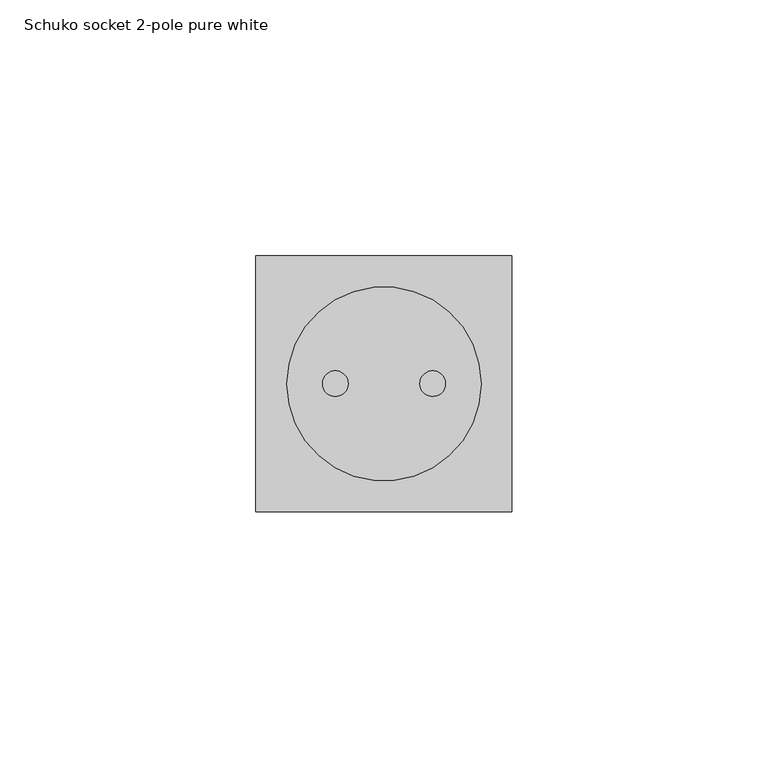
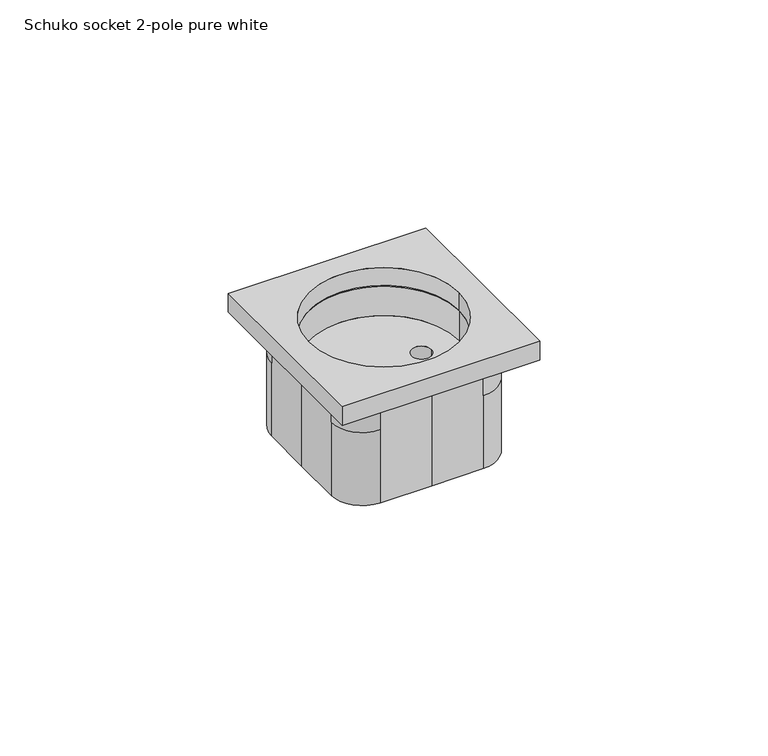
"""IFC4 building model written with IfcOpenShell, lengths in millimetres: proxy geometry, Electrical_Installation_Hager_VE-EE_Schuko-Socket : Schuko socket 2-pole pure white."""

from ifc_helpers import new_model, si_unit, point, frame, frame_2d, origin, origin_with_axes, place, context, project, spatial, polyline, circle_curve, trimmed, segment, composite_curve, outline, extrude, source, transform, mapped, element, save
from ifc_brep_helpers import plane_surface, cylinder_surface, revolved_surface, advanced_brep


def schuko_socket_2_pole_pure_white_34ad4e96(model_context):
    return source(origin(), model_context, "Body", "SolidModel", [
        advanced_brep(
        [(-13.037055, 20.9089332, 0.0), (-20.9, 13.0459882, 0.0), (-20.9, 0.0, 0.0), (-20.9, -13.0459882, 0.0), (-13.037055, -20.9089332, 0.0), (0.0, -20.9089332, 0.0), (13.037055, -20.9089332, 0.0), (20.9, -13.0459882, 0.0), (20.9, 0.0, 0.0), (20.9, 13.0459882, 0.0), (13.037055, 20.9089332, 0.0), (0.0, 20.9089332, 0.0), (-19.0, 0.0269361, 0.0), (19.0, 0.0269361, 0.0), (-19.0, 0.0269361, -7.8368709), (19.0, 0.0269361, -7.8368709), (-20.9, 13.0459882, -27.3980621), (-13.037055, 20.9089332, -27.3980621), (0.0, 20.9089332, -27.3980621), (13.037055, 20.9089332, -27.3980621), (20.9, 13.0459882, -27.3980621), (20.9, 0.0, -27.3980621), (20.9, -13.0459882, -27.3980621), (13.037055, -20.9089332, -27.3980621), (0.0, -20.9089332, -27.3980621), (-13.037055, -20.9089332, -27.3980621), (-20.9, -13.0459882, -27.3980621), (-20.9, 0.0, -27.3980621), (-7.0046862, 0.072652, -7.8368709), (-12.0046862, 0.072652, -7.8368709), (7.0046862, 0.072652, -7.8368709), (12.0046862, 0.072652, -7.8368709), (-12.0046862, 0.072652, -12.4150088), (-7.0046862, 0.072652, -12.4150088), (12.0046862, 0.072652, -12.4150088), (7.0046862, 0.072652, -12.4150088), (-13.037055, 20.9089332, -7.8368709), (-20.9, 13.0459882, -7.8368709), (-20.9, -13.0459882, -7.8368709), (-13.037055, -20.9089332, -7.8368709), (13.037055, -20.9089332, -7.8368709), (20.9, -13.0459882, -7.8368709), (20.9, 13.0459882, -7.8368709), (13.037055, 20.9089332, -7.8368709), (-20.9, 0.0, -7.8368709), (0.0, -20.9089332, -7.8368709), (20.9, 0.0, -7.8368709), (0.0, 20.9089332, -7.8368709)],
        [
            (0, 1, circle_curve(frame((-13.037055, 13.0459882, 0.0), z_axis=(0.0, 0.0, 1.0), x_axis=(1.0, 0.0, 0.0)), 7.862945)),
            (1, 2),
            (2, 3),
            (3, 4, circle_curve(frame((-13.037055, -13.0459882, 0.0), z_axis=(0.0, 0.0, 1.0), x_axis=(1.0, 0.0, 0.0)), 7.862945)),
            (4, 5),
            (5, 6),
            (6, 7, circle_curve(frame((13.037055, -13.0459882, 0.0), z_axis=(0.0, 0.0, 1.0), x_axis=(-1.0, 0.0, 0.0)), 7.862945)),
            (7, 8),
            (8, 9),
            (9, 10, circle_curve(frame((13.037055, 13.0459882, 0.0), z_axis=(0.0, 0.0, 1.0), x_axis=(-1.0, 0.0, 0.0)), 7.862945)),
            (10, 11),
            (11, 0),
            (12, 13, circle_curve(frame((0.0, 0.0269361, 0.0), z_axis=(0.0, 0.0, -1.0), x_axis=(1.0, 0.0, 0.0)), 19.0)),
            (13, 12, circle_curve(frame((0.0, 0.0269361, 0.0), z_axis=(0.0, 0.0, -1.0), x_axis=(1.0, 0.0, 0.0)), 19.0)),
            (12, 14),
            (14, 15, circle_curve(frame((0.0, 0.0269361, -7.8368709), z_axis=(0.0, 0.0, -1.0), x_axis=(1.0, 0.0, 0.0)), 19.0)),
            (15, 13),
            (15, 14, circle_curve(frame((0.0, 0.0269361, -7.8368709), z_axis=(0.0, 0.0, -1.0), x_axis=(1.0, 0.0, 0.0)), 19.0)),
            (16, 17, circle_curve(frame((-13.037055, 13.0459882, -27.3980621), z_axis=(0.0, 0.0, -1.0), x_axis=(1.0, 0.0, 0.0)), 7.862945)),
            (17, 18),
            (18, 19),
            (19, 20, circle_curve(frame((13.037055, 13.0459882, -27.3980621), z_axis=(0.0, 0.0, -1.0), x_axis=(-1.0, 0.0, 0.0)), 7.862945)),
            (20, 21),
            (21, 22),
            (22, 23, circle_curve(frame((13.037055, -13.0459882, -27.3980621), z_axis=(0.0, 0.0, -1.0), x_axis=(-1.0, 0.0, 0.0)), 7.862945)),
            (23, 24),
            (24, 25),
            (25, 26, circle_curve(frame((-13.037055, -13.0459882, -27.3980621), z_axis=(0.0, 0.0, -1.0), x_axis=(1.0, 0.0, 0.0)), 7.862945)),
            (26, 27),
            (27, 16),
            (28, 29, circle_curve(frame((-9.5046862, 0.072652, -7.8368709), z_axis=(0.0, 0.0, -1.0), x_axis=(1.0, 0.0, 0.0)), 2.5)),
            (29, 28, circle_curve(frame((-9.5046862, 0.072652, -7.8368709), z_axis=(0.0, 0.0, -1.0), x_axis=(1.0, 0.0, 0.0)), 2.5)),
            (30, 31, circle_curve(frame((9.5046862, 0.072652, -7.8368709), z_axis=(0.0, 0.0, -1.0), x_axis=(-1.0, 0.0, 0.0)), 2.5)),
            (31, 30, circle_curve(frame((9.5046862, 0.072652, -7.8368709), z_axis=(0.0, 0.0, -1.0), x_axis=(-1.0, 0.0, 0.0)), 2.5)),
            (32, 33, circle_curve(frame((-9.5046862, 0.072652, -12.4150088), z_axis=(0.0, 0.0, 1.0), x_axis=(1.0, 0.0, 0.0)), 2.5)),
            (33, 32, circle_curve(frame((-9.5046862, 0.072652, -12.4150088), z_axis=(0.0, 0.0, 1.0), x_axis=(1.0, 0.0, 0.0)), 2.5)),
            (34, 35, circle_curve(frame((9.5046862, 0.072652, -12.4150088), z_axis=(0.0, 0.0, 1.0), x_axis=(-1.0, 0.0, 0.0)), 2.5)),
            (35, 34, circle_curve(frame((9.5046862, 0.072652, -12.4150088), z_axis=(0.0, 0.0, 1.0), x_axis=(-1.0, 0.0, 0.0)), 2.5)),
            (32, 29),
            (28, 33),
            (34, 31),
            (30, 35),
            (0, 36),
            (36, 37, circle_curve(frame((-13.037055, 13.0459882, -7.8368709), z_axis=(0.0, 0.0, 1.0), x_axis=(1.0, 0.0, 0.0)), 7.862945)),
            (37, 1),
            (3, 38),
            (38, 39, circle_curve(frame((-13.037055, -13.0459882, -7.8368709), z_axis=(0.0, 0.0, 1.0), x_axis=(1.0, 0.0, 0.0)), 7.862945)),
            (39, 4),
            (6, 40),
            (40, 41, circle_curve(frame((13.037055, -13.0459882, -7.8368709), z_axis=(0.0, 0.0, 1.0), x_axis=(-1.0, 0.0, 0.0)), 7.862945)),
            (41, 7),
            (9, 42),
            (42, 43, circle_curve(frame((13.037055, 13.0459882, -7.8368709), z_axis=(0.0, 0.0, 1.0), x_axis=(-1.0, 0.0, 0.0)), 7.862945)),
            (43, 10),
            (27, 44),
            (44, 2),
            (37, 16),
            (26, 38),
            (25, 39),
            (24, 45),
            (45, 5),
            (23, 40),
            (22, 41),
            (21, 46),
            (46, 8),
            (20, 42),
            (19, 43),
            (18, 47),
            (47, 11),
            (17, 36),
        ],
        [
            plane_surface(frame((19.0, 0.0269361, 0.0), z_axis=(0.0, 0.0, 1.0), x_axis=(0.0, -1.0, 0.0))),
            revolved_surface(polyline([(19.0, 0.0269361, -7.8368709), (19.0, 0.0269361, 0.0)]), (0.0, 0.0269361, -7.8368709), (0.0, 0.0, -1.0)),
            plane_surface(frame((-20.9, 13.0459882, -27.3980621), z_axis=(0.0, 0.0, -1.0), x_axis=(0.0, 1.0, 0.0))),
            plane_surface(frame((-20.9, 13.0459882, -7.8368709), z_axis=(0.0, 0.0, 1.0), x_axis=(0.0, -1.0, 0.0))),
            plane_surface(frame((-7.0046862, 0.072652, -12.4150088), z_axis=(0.0, 0.0, 1.0), x_axis=(0.0, -1.0, 0.0))),
            revolved_surface(polyline([(-7.0046862, 0.072652, -7.8368709), (-7.0046862, 0.072652, -12.4150088)]), (-9.5046862, 0.072652, -12.4150088), (0.0, 0.0, 1.0)),
            revolved_surface(polyline([(7.0046862, 0.072652, -7.8368709), (7.0046862, 0.072652, -12.4150088)]), (9.5046862, 0.072652, 0.0), (0.0, 0.0, 1.0)),
            cylinder_surface(frame((-13.037055, 13.0459882, 0.0), z_axis=(0.0, 0.0, 1.0), x_axis=(1.0, 0.0, 0.0)), 7.862945),
            cylinder_surface(frame((-13.037055, -13.0459882, 0.0), z_axis=(0.0, 0.0, 1.0), x_axis=(1.0, 0.0, 0.0)), 7.862945),
            cylinder_surface(frame((13.037055, -13.0459882, 0.0), z_axis=(0.0, 0.0, 1.0), x_axis=(-1.0, 0.0, 0.0)), 7.862945),
            cylinder_surface(frame((13.037055, 13.0459882, 0.0), z_axis=(0.0, 0.0, 1.0), x_axis=(-1.0, 0.0, 0.0)), 7.862945),
            plane_surface(frame((-20.9, 13.0459882, -7.8368709), z_axis=(-1.0, 0.0, 0.0), x_axis=(0.0, 0.0, -1.0))),
            plane_surface(frame((-20.9, 0.0, -7.8368709), z_axis=(-1.0, 0.0, 0.0), x_axis=(0.0, 0.0, -1.0))),
            cylinder_surface(frame((-13.037055, -13.0459882, -27.3980621), z_axis=(0.0, 0.0, 1.0), x_axis=(1.0, 0.0, 0.0)), 7.862945),
            plane_surface(frame((-13.037055, -20.9089332, -7.8368709), z_axis=(0.0, -1.0, 0.0), x_axis=(0.0, 0.0, -1.0))),
            plane_surface(frame((0.0, -20.9089332, -7.8368709), z_axis=(0.0, -1.0, 0.0), x_axis=(0.0, 0.0, -1.0))),
            cylinder_surface(frame((13.037055, -13.0459882, -27.3980621), z_axis=(0.0, 0.0, 1.0), x_axis=(-1.0, 0.0, 0.0)), 7.862945),
            plane_surface(frame((20.9, -13.0459882, -7.8368709), z_axis=(1.0, 0.0, 0.0), x_axis=(0.0, 0.0, -1.0))),
            plane_surface(frame((20.9, 0.0, -7.8368709), z_axis=(1.0, 0.0, 0.0), x_axis=(0.0, 0.0, -1.0))),
            cylinder_surface(frame((13.037055, 13.0459882, -27.3980621), z_axis=(0.0, 0.0, 1.0), x_axis=(-1.0, 0.0, 0.0)), 7.862945),
            plane_surface(frame((13.037055, 20.9089332, -7.8368709), z_axis=(0.0, 1.0, 0.0), x_axis=(0.0, 0.0, -1.0))),
            plane_surface(frame((0.0, 20.9089332, -7.8368709), z_axis=(0.0, 1.0, 0.0), x_axis=(0.0, 0.0, -1.0))),
            cylinder_surface(frame((-13.037055, 13.0459882, -27.3980621), z_axis=(0.0, 0.0, 1.0), x_axis=(1.0, 0.0, 0.0)), 7.862945),
        ],
        [
            (0, [[1, 2, 3, 4, 5, 6, 7, 8, 9, 10, 11, 12], [13, 14]]),
            (1, [[-13, 15, 16, 17]]),
            (1, [[-14, -17, 18, -15]]),
            (2, [[19, 20, 21, 22, 23, 24, 25, 26, 27, 28, 29, 30]]),
            (3, [[-16, -18], [31, 32], [33, 34]]),
            (4, [[35, 36]]),
            (4, [[37, 38]]),
            (5, [[-35, 39, -31, 40]]),
            (5, [[-36, -40, -32, -39]]),
            (6, [[-37, 41, -33, 42]]),
            (6, [[-38, -42, -34, -41]]),
            (7, [[-1, 43, 44, 45]]),
            (8, [[-4, 46, 47, 48]]),
            (9, [[-7, 49, 50, 51]]),
            (10, [[-10, 52, 53, 54]]),
            (11, [[-30, 55, 56, -2, -45, 57]]),
            (12, [[-29, 58, -46, -3, -56, -55]]),
            (13, [[-28, 59, -47, -58]]),
            (14, [[-27, 60, 61, -5, -48, -59]]),
            (15, [[-26, 62, -49, -6, -61, -60]]),
            (16, [[-25, 63, -50, -62]]),
            (17, [[-24, 64, 65, -8, -51, -63]]),
            (18, [[-23, 66, -52, -9, -65, -64]]),
            (19, [[-22, 67, -53, -66]]),
            (20, [[-21, 68, 69, -11, -54, -67]]),
            (21, [[-20, 70, -43, -12, -69, -68]]),
            (22, [[-19, -57, -44, -70]]),
        ],
    ),
        extrude(outline(polyline([(-25.0, 25.0), (25.0, 25.0), (25.0, -25.0), (-25.0, -25.0), (-25.0, 25.0)]), holes=[composite_curve([segment(trimmed(circle_curve(frame_2d((0.0, 0.0269361)), 18.9610154), [point((-18.9610154, 0.0269361))], [point((18.9610154, 0.0269361))], True, "CARTESIAN"), True, "CONTINUOUS"), segment(trimmed(circle_curve(frame_2d((0.0, 0.0269361)), 18.9610154), [point((18.9610154, 0.0269361))], [point((-18.9610154, 0.0269361))], True, "CARTESIAN"), True, "CONTINUOUS")], self_intersect=False)]), origin_with_axes(), (0.0, 0.0, 1.0), 5.0),
    ])


if __name__ == "__main__":
    model = new_model("IFC4")
    model_context = context("Model", 3, world=origin())
    ifc_project = project(units=[si_unit("LENGTHUNIT", "METRE", prefix="MILLI")], contexts=[model_context])
    site = spatial("IfcSite", under=ifc_project)
    building = spatial("IfcBuilding", under=site)
    placement = place(None, origin())
    schuko_socket_2_pole_pure_white_shape = schuko_socket_2_pole_pure_white_34ad4e96(model_context)
    element("IfcBuildingElementProxy", 1, Name="Electrical_Installation_Hager_VE-EE_Schuko-Socket : Schuko socket 2-pole pure white", ObjectType="Electrical_Installation_Hager_VE-EE_Schuko-Socket : Schuko socket 2-pole pure white", at=placement, inside=building, context=model_context, shape_type="MappedRepresentation", body=[
        mapped(schuko_socket_2_pole_pure_white_shape, transform((0.0, 0.0, 0.0), x_axis=(1.0, 0.0, 0.0), y_axis=(0.0, 1.0, 0.0), z_axis=(0.0, 0.0, 1.0))),
    ])
    save(model, "model.ifc")
